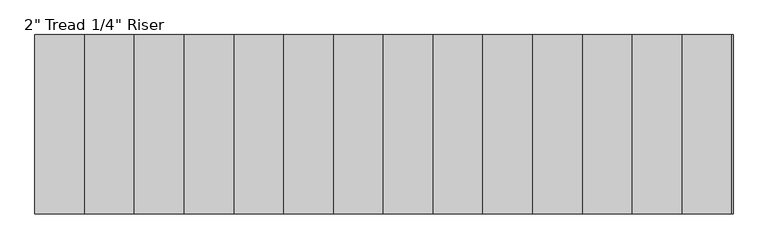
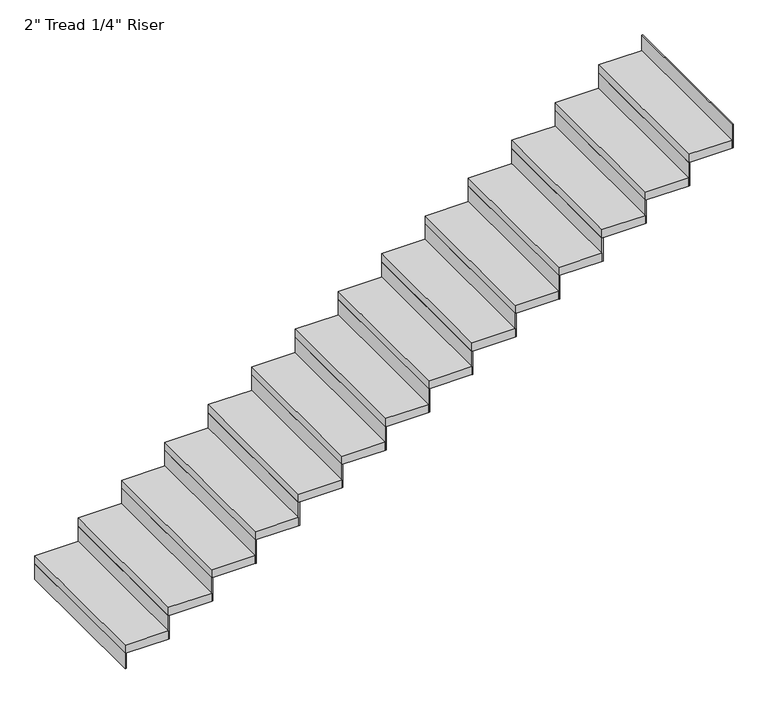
"""IFC4 building model written with IfcOpenShell, lengths in millimetres: stair flight geometry."""

from ifc_helpers import new_model, si_unit, frame, origin, origin_with_axes, place, context, project, spatial, polyline, outline, extrude, source, transform, mapped, element, save


def stair_flight_0474ce6d(model_context):
    return source(origin(), model_context, "Body", "SweptSolid", [
        extrude(outline(polyline([(46469.3366768, 21385.3361774), (46462.9866768, 21385.3361774), (46462.9866768, 22299.7361774), (46469.3366768, 22299.7361774), (46469.3366768, 21385.3361774)])), origin_with_axes(), (0.0, 0.0, 1.0), 94.3428571),
        extrude(outline(polyline([(46716.9866768, 22299.7361774), (46716.9866768, 21385.3361774), (46462.9866768, 21385.3361774), (46462.9866768, 22299.7361774), (46716.9866768, 22299.7361774)])), frame((0.0, 0.0, 94.3428571), z_axis=(0.0, 0.0, 1.0), x_axis=(1.0, 0.0, 0.0)), (0.0, 0.0, 1.0), 50.8),
        extrude(outline(polyline([(46723.3366768, 21385.3361774), (46716.9866768, 21385.3361774), (46716.9866768, 22299.7361774), (46723.3366768, 22299.7361774), (46723.3366768, 21385.3361774)])), frame((0.0, 0.0, 94.3428571), z_axis=(0.0, 0.0, 1.0), x_axis=(1.0, 0.0, 0.0)), (0.0, 0.0, 1.0), 145.1428571),
        extrude(outline(polyline([(46970.9866768, 22299.7361774), (46970.9866768, 21385.3361774), (46716.9866768, 21385.3361774), (46716.9866768, 22299.7361774), (46970.9866768, 22299.7361774)])), frame((0.0, 0.0, 239.4857143), z_axis=(0.0, 0.0, 1.0), x_axis=(1.0, 0.0, 0.0)), (0.0, 0.0, 1.0), 50.8),
        extrude(outline(polyline([(46977.3366768, 21385.3361774), (46970.9866768, 21385.3361774), (46970.9866768, 22299.7361774), (46977.3366768, 22299.7361774), (46977.3366768, 21385.3361774)])), frame((0.0, 0.0, 239.4857143), z_axis=(0.0, 0.0, 1.0), x_axis=(1.0, 0.0, 0.0)), (0.0, 0.0, 1.0), 145.1428571),
        extrude(outline(polyline([(47224.9866768, 22299.7361774), (47224.9866768, 21385.3361774), (46970.9866768, 21385.3361774), (46970.9866768, 22299.7361774), (47224.9866768, 22299.7361774)])), frame((0.0, 0.0, 384.6285714), z_axis=(0.0, 0.0, 1.0), x_axis=(1.0, 0.0, 0.0)), (0.0, 0.0, 1.0), 50.8),
        extrude(outline(polyline([(47231.3366768, 21385.3361774), (47224.9866768, 21385.3361774), (47224.9866768, 22299.7361774), (47231.3366768, 22299.7361774), (47231.3366768, 21385.3361774)])), frame((0.0, 0.0, 384.6285714), z_axis=(0.0, 0.0, 1.0), x_axis=(1.0, 0.0, 0.0)), (0.0, 0.0, 1.0), 145.1428571),
        extrude(outline(polyline([(47478.9866768, 22299.7361774), (47478.9866768, 21385.3361774), (47224.9866768, 21385.3361774), (47224.9866768, 22299.7361774), (47478.9866768, 22299.7361774)])), frame((0.0, 0.0, 529.7714286), z_axis=(0.0, 0.0, 1.0), x_axis=(1.0, 0.0, 0.0)), (0.0, 0.0, 1.0), 50.8),
        extrude(outline(polyline([(47485.3366768, 21385.3361774), (47478.9866768, 21385.3361774), (47478.9866768, 22299.7361774), (47485.3366768, 22299.7361774), (47485.3366768, 21385.3361774)])), frame((0.0, 0.0, 529.7714286), z_axis=(0.0, 0.0, 1.0), x_axis=(1.0, 0.0, 0.0)), (0.0, 0.0, 1.0), 145.1428571),
        extrude(outline(polyline([(47732.9866768, 22299.7361774), (47732.9866768, 21385.3361774), (47478.9866768, 21385.3361774), (47478.9866768, 22299.7361774), (47732.9866768, 22299.7361774)])), frame((0.0, 0.0, 674.9142857), z_axis=(0.0, 0.0, 1.0), x_axis=(1.0, 0.0, 0.0)), (0.0, 0.0, 1.0), 50.8),
        extrude(outline(polyline([(47739.3366768, 21385.3361774), (47732.9866768, 21385.3361774), (47732.9866768, 22299.7361774), (47739.3366768, 22299.7361774), (47739.3366768, 21385.3361774)])), frame((0.0, 0.0, 674.9142857), z_axis=(0.0, 0.0, 1.0), x_axis=(1.0, 0.0, 0.0)), (0.0, 0.0, 1.0), 145.1428571),
        extrude(outline(polyline([(47986.9866768, 22299.7361774), (47986.9866768, 21385.3361774), (47732.9866768, 21385.3361774), (47732.9866768, 22299.7361774), (47986.9866768, 22299.7361774)])), frame((0.0, 0.0, 820.0571429), z_axis=(0.0, 0.0, 1.0), x_axis=(1.0, 0.0, 0.0)), (0.0, 0.0, 1.0), 50.8),
        extrude(outline(polyline([(47993.3366768, 21385.3361774), (47986.9866768, 21385.3361774), (47986.9866768, 22299.7361774), (47993.3366768, 22299.7361774), (47993.3366768, 21385.3361774)])), frame((0.0, 0.0, 820.0571429), z_axis=(0.0, 0.0, 1.0), x_axis=(1.0, 0.0, 0.0)), (0.0, 0.0, 1.0), 145.1428571),
        extrude(outline(polyline([(48240.9866768, 22299.7361774), (48240.9866768, 21385.3361774), (47986.9866768, 21385.3361774), (47986.9866768, 22299.7361774), (48240.9866768, 22299.7361774)])), frame((0.0, 0.0, 965.2), z_axis=(0.0, 0.0, 1.0), x_axis=(1.0, 0.0, 0.0)), (0.0, 0.0, 1.0), 50.8),
        extrude(outline(polyline([(48247.3366768, 21385.3361774), (48240.9866768, 21385.3361774), (48240.9866768, 22299.7361774), (48247.3366768, 22299.7361774), (48247.3366768, 21385.3361774)])), frame((0.0, 0.0, 965.2), z_axis=(0.0, 0.0, 1.0), x_axis=(1.0, 0.0, 0.0)), (0.0, 0.0, 1.0), 145.1428571),
        extrude(outline(polyline([(48494.9866768, 22299.7361774), (48494.9866768, 21385.3361774), (48240.9866768, 21385.3361774), (48240.9866768, 22299.7361774), (48494.9866768, 22299.7361774)])), frame((0.0, 0.0, 1110.3428571), z_axis=(0.0, 0.0, 1.0), x_axis=(1.0, 0.0, 0.0)), (0.0, 0.0, 1.0), 50.8),
        extrude(outline(polyline([(48501.3366768, 21385.3361774), (48494.9866768, 21385.3361774), (48494.9866768, 22299.7361774), (48501.3366768, 22299.7361774), (48501.3366768, 21385.3361774)])), frame((0.0, 0.0, 1110.3428571), z_axis=(0.0, 0.0, 1.0), x_axis=(1.0, 0.0, 0.0)), (0.0, 0.0, 1.0), 145.1428571),
        extrude(outline(polyline([(48748.9866768, 22299.7361774), (48748.9866768, 21385.3361774), (48494.9866768, 21385.3361774), (48494.9866768, 22299.7361774), (48748.9866768, 22299.7361774)])), frame((0.0, 0.0, 1255.4857143), z_axis=(0.0, 0.0, 1.0), x_axis=(1.0, 0.0, 0.0)), (0.0, 0.0, 1.0), 50.8),
        extrude(outline(polyline([(48755.3366768, 21385.3361774), (48748.9866768, 21385.3361774), (48748.9866768, 22299.7361774), (48755.3366768, 22299.7361774), (48755.3366768, 21385.3361774)])), frame((0.0, 0.0, 1255.4857143), z_axis=(0.0, 0.0, 1.0), x_axis=(1.0, 0.0, 0.0)), (0.0, 0.0, 1.0), 145.1428571),
        extrude(outline(polyline([(49002.9866768, 22299.7361774), (49002.9866768, 21385.3361774), (48748.9866768, 21385.3361774), (48748.9866768, 22299.7361774), (49002.9866768, 22299.7361774)])), frame((0.0, 0.0, 1400.6285714), z_axis=(0.0, 0.0, 1.0), x_axis=(1.0, 0.0, 0.0)), (0.0, 0.0, 1.0), 50.8),
        extrude(outline(polyline([(49009.3366768, 21385.3361774), (49002.9866768, 21385.3361774), (49002.9866768, 22299.7361774), (49009.3366768, 22299.7361774), (49009.3366768, 21385.3361774)])), frame((0.0, 0.0, 1400.6285714), z_axis=(0.0, 0.0, 1.0), x_axis=(1.0, 0.0, 0.0)), (0.0, 0.0, 1.0), 145.1428571),
        extrude(outline(polyline([(49256.9866768, 22299.7361774), (49256.9866768, 21385.3361774), (49002.9866768, 21385.3361774), (49002.9866768, 22299.7361774), (49256.9866768, 22299.7361774)])), frame((0.0, 0.0, 1545.7714286), z_axis=(0.0, 0.0, 1.0), x_axis=(1.0, 0.0, 0.0)), (0.0, 0.0, 1.0), 50.8),
        extrude(outline(polyline([(49263.3366768, 21385.3361774), (49256.9866768, 21385.3361774), (49256.9866768, 22299.7361774), (49263.3366768, 22299.7361774), (49263.3366768, 21385.3361774)])), frame((0.0, 0.0, 1545.7714286), z_axis=(0.0, 0.0, 1.0), x_axis=(1.0, 0.0, 0.0)), (0.0, 0.0, 1.0), 145.1428571),
        extrude(outline(polyline([(49510.9866768, 22299.7361774), (49510.9866768, 21385.3361774), (49256.9866768, 21385.3361774), (49256.9866768, 22299.7361774), (49510.9866768, 22299.7361774)])), frame((0.0, 0.0, 1690.9142857), z_axis=(0.0, 0.0, 1.0), x_axis=(1.0, 0.0, 0.0)), (0.0, 0.0, 1.0), 50.8),
        extrude(outline(polyline([(49517.3366768, 21385.3361774), (49510.9866768, 21385.3361774), (49510.9866768, 22299.7361774), (49517.3366768, 22299.7361774), (49517.3366768, 21385.3361774)])), frame((0.0, 0.0, 1690.9142857), z_axis=(0.0, 0.0, 1.0), x_axis=(1.0, 0.0, 0.0)), (0.0, 0.0, 1.0), 145.1428571),
        extrude(outline(polyline([(49764.9866768, 22299.7361774), (49764.9866768, 21385.3361774), (49510.9866768, 21385.3361774), (49510.9866768, 22299.7361774), (49764.9866768, 22299.7361774)])), frame((0.0, 0.0, 1836.0571429), z_axis=(0.0, 0.0, 1.0), x_axis=(1.0, 0.0, 0.0)), (0.0, 0.0, 1.0), 50.8),
        extrude(outline(polyline([(49771.3366768, 21385.3361774), (49764.9866768, 21385.3361774), (49764.9866768, 22299.7361774), (49771.3366768, 22299.7361774), (49771.3366768, 21385.3361774)])), frame((0.0, 0.0, 1836.0571429), z_axis=(0.0, 0.0, 1.0), x_axis=(1.0, 0.0, 0.0)), (0.0, 0.0, 1.0), 145.1428571),
        extrude(outline(polyline([(50025.3366768, 21385.3361774), (50018.9866768, 21385.3361774), (50018.9866768, 22299.7361774), (50025.3366768, 22299.7361774), (50025.3366768, 21385.3361774)])), frame((0.0, 0.0, 1981.2), z_axis=(0.0, 0.0, 1.0), x_axis=(1.0, 0.0, 0.0)), (0.0, 0.0, 1.0), 145.1428571),
        extrude(outline(polyline([(50018.9866768, 22299.7361774), (50018.9866768, 21385.3361774), (49764.9866768, 21385.3361774), (49764.9866768, 22299.7361774), (50018.9866768, 22299.7361774)])), frame((0.0, 0.0, 1981.2), z_axis=(0.0, 0.0, 1.0), x_axis=(1.0, 0.0, 0.0)), (0.0, 0.0, 1.0), 50.8),
    ])


if __name__ == "__main__":
    model = new_model("IFC4")
    model_context = context("Model", 3, world=origin())
    ifc_project = project(units=[si_unit("LENGTHUNIT", "METRE", prefix="MILLI")], contexts=[model_context])
    site = spatial("IfcSite", under=ifc_project)
    building = spatial("IfcBuilding", under=site)
    placement = place(None, origin())
    stair_flight_shape = stair_flight_0474ce6d(model_context)
    element("IfcStairFlight", 1, ObjectType="2\" Tread 1/4\" Riser", at=placement, inside=building, context=model_context, shape_type="MappedRepresentation", body=[
        mapped(stair_flight_shape, transform((0.0, 0.0, 0.0), x_axis=(1.0, 0.0, 0.0), y_axis=(0.0, 1.0, 0.0), z_axis=(0.0, 0.0, 1.0))),
    ])
    save(model, "model.ifc")
